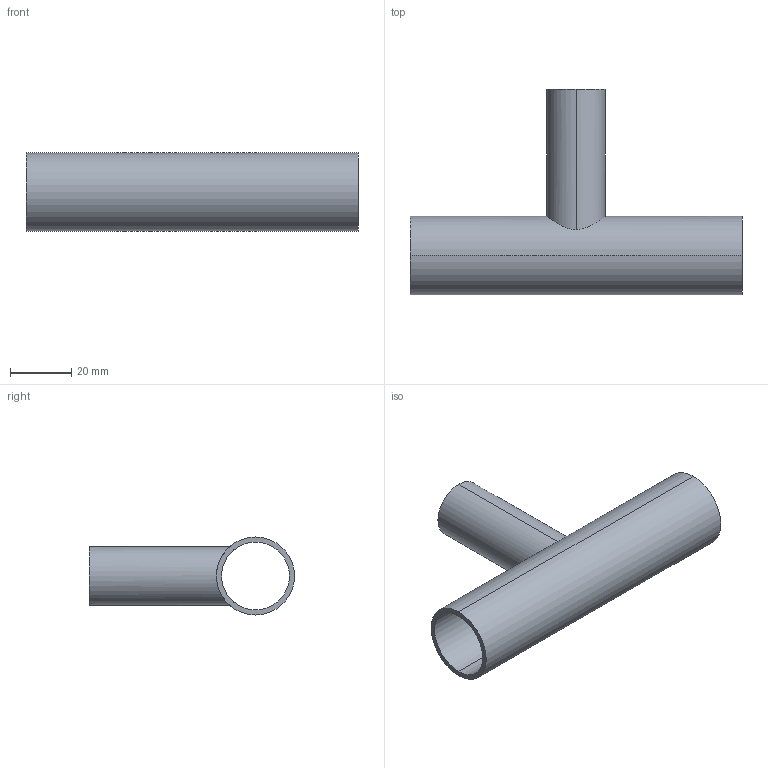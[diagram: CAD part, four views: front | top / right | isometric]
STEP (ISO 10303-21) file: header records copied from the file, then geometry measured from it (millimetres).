
FILE_DESCRIPTION (( 'STEP AP214' ), '1' );
FILE_NAME ('TE7RWWW6L1.0x.75-...STEP', '2016-05-24T04:08:14', ( 'eran' ), ( '' ), 'SwSTEP 2.0', 'SolidWorks 2016', '' );
FILE_SCHEMA (( 'AUTOMOTIVE_DESIGN' ));
Length unit declared in the file: millimetre
Products named in the file (1): TE7RWWW6L1.0x.75-..
Bounding box: 108 x 66.7 x 25.4 mm (x, y, z)
Volume: 16829.1 mm3; surface area: 20728 mm2
Topology: 1 solids, 1 shells, 11 faces, 24 edges, 16 vertices
Faces by surface type: cylinder 8, plane 3
Entity records: 532 total; most frequent: CARTESIAN_POINT 240, DIRECTION 56, ORIENTED_EDGE 48, EDGE_CURVE 24, AXIS2_PLACEMENT_3D 24, EDGE_LOOP 16, VERTEX_POINT 16, CIRCLE 12
